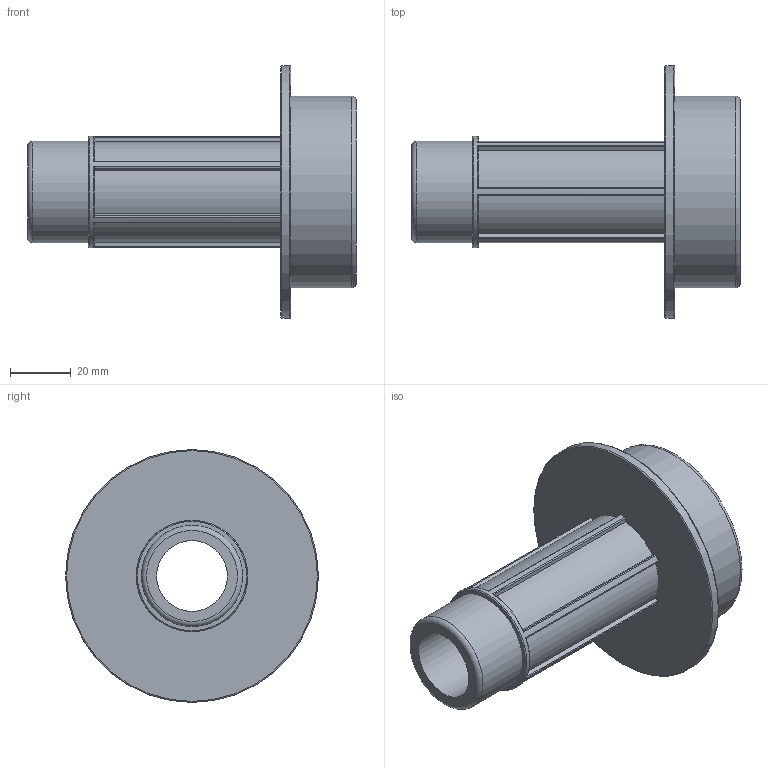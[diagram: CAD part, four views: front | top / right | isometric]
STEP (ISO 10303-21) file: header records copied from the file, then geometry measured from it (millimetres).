
FILE_DESCRIPTION(/* description */ ('PLASSON THREADED MALE ADAPTOR 63-1"'),/* implementation_level */ '2;1');
FILE_NAME(/* name */ 'C:\Dropbox\KIMPROJECTS-Inventor\99-16-3568-Processing\Silver+MF ISRAEL\078901\078901063010.ipt.stp',/* time_stamp */ '2018-04-09T13:02:03+03:00',/* author */ ('KIM'),/* organization */ (''),/* preprocessor_version */ 'ST-DEVELOPER v15.6',/* originating_system */ 'Autodesk Inventor 2015',/* authorisation */ '');
FILE_SCHEMA (('AUTOMOTIVE_DESIGN { 1 0 10303 214 3 1 1 }'));
Length unit declared in the file: millimetre
Products named in the file (1): 078901063010
Bounding box: 108 x 83 x 83 mm (x, y, z)
Volume: 112898.7 mm3; surface area: 32816.5 mm2
Topology: 1 solids, 1 shells, 57 faces, 151 edges, 99 vertices
Faces by surface type: cylinder 23, plane 23, torus 11
Full cylindrical faces by diameter (mm): 23.274 x1, 33.249 x1, 36.574 x1, 63 x1, 83 x1
Entity records: 1894 total; most frequent: CARTESIAN_POINT 488, DIRECTION 288, ORIENTED_EDGE 280, EDGE_CURVE 140, AXIS2_PLACEMENT_3D 114, VERTEX_POINT 98, EDGE_LOOP 72, LINE 60
